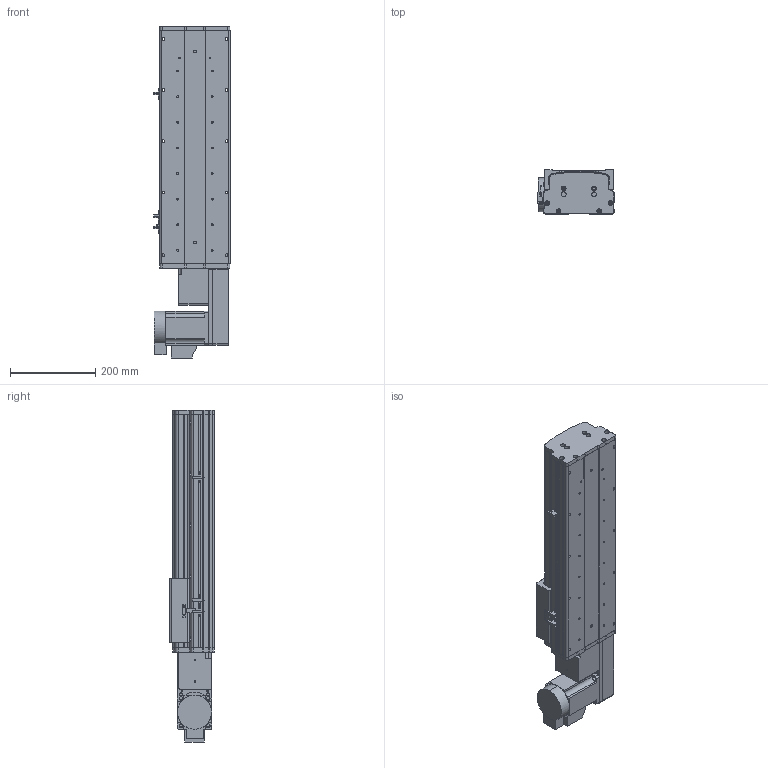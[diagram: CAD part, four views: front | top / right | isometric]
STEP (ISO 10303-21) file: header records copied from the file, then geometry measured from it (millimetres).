
FILE_DESCRIPTION (( 'STEP AP214' ), '1' );
FILE_NAME ('KSD165B-S300-MRB-CM.STEP', '2017-10-16T08:40:12', ( '微软用户' ), ( '微软中国' ), 'SwSTEP 2.0', 'SolidWorks 2014', '' );
FILE_SCHEMA (( 'AUTOMOTIVE_DESIGN' ));
Length unit declared in the file: millimetre
Products named in the file (18): KSD165模组-同步带防尘盖1-300行程-最新版; HTPA26S5M250-A-H8 400W萇儂蚚 ; 130宽模组马达安装板连板左右折同步带; 130宽模组保护罩上下左右折-同步带; U倰嫖萇假蚾璃; U倰嫖萇EEㄜSX672; 拸秶雄ん750W侜督萇儂; 肣翐M4X35樓6; 覜茼え68遵圉猾敕; 165宽马达安装板同步带右; KSD165模组-同步带-防撞垫2; KSD165模组同步带-防撞垫1; KSD165耀郪-ヶ傷啣1-肮祭湍; KSD165模组-后端板1-同步带; KSD165模组-同步带滑动座-最新版; KSD165B-S300-MRB-CM; KSD165模组同步带底板-300行程-最新; HTPA26S5M250-A-H8 750W萇儂蚚
Assembly tree (22 placements, depth 2):
  KSD165B-S300-MRB-CM
    KSD165模组-同步带滑动座-最新版
    KSD165模组-后端板1-同步带
    KSD165耀郪-ヶ傷啣1-肮祭湍
    KSD165模组同步带-防撞垫1
    KSD165模组-同步带-防撞垫2
    覜茼え68遵圉猾敕
    U倰嫖萇EEㄜSX672  x3
    U倰嫖萇假蚾璃  x3
    130宽模组保护罩上下左右折-同步带
    130宽模组马达安装板连板左右折同步带
    HTPA26S5M250-A-H8 400W萇儂蚚 
    HTPA26S5M250-A-H8 750W萇儂蚚
    肣翐M4X35樓6  x2
    KSD165模组同步带底板-300行程-最新
    KSD165模组-同步带防尘盖1-300行程-最新版
    165宽马达安装板同步带右
    拸秶雄ん750W侜督萇儂
Bounding box: 178.7 x 104 x 777.5 mm (x, y, z)
Volume: 4761429.6 mm3; surface area: 1098601.5 mm2
Topology: 23 solids, 23 shells, 1897 faces, 5324 edges, 3470 vertices
Faces by surface type: cylinder 1187, plane 594, cone 116
Entity records: 60230 total; most frequent: CARTESIAN_POINT 12314, DIRECTION 9966, ORIENTED_EDGE 9236, EDGE_CURVE 4618, AXIS2_PLACEMENT_3D 3891, VERTEX_POINT 3041, CIRCLE 2204, LINE 2184
